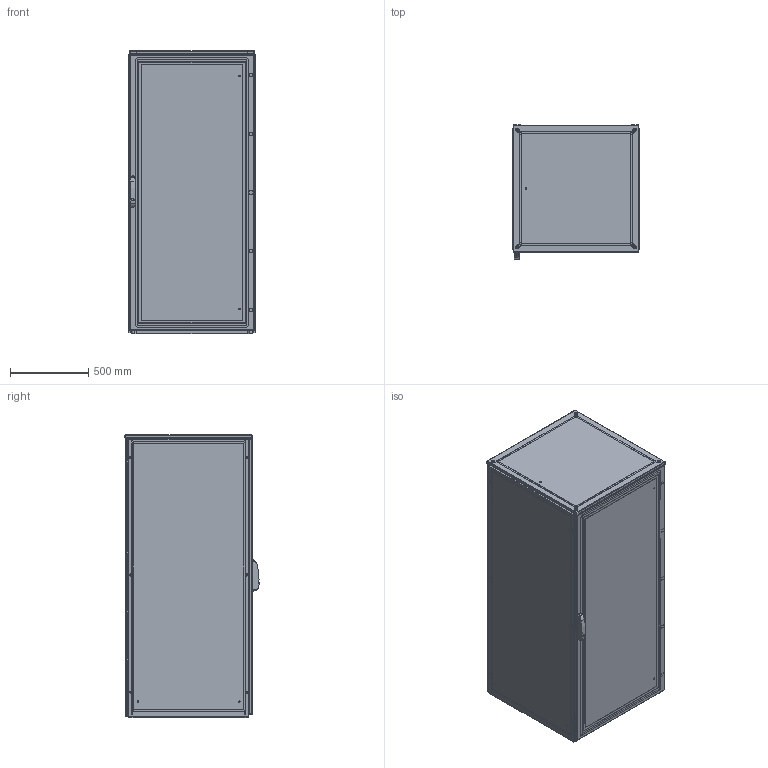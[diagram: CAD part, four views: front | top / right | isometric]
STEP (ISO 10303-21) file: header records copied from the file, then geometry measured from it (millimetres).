
FILE_DESCRIPTION(/* description */ ('STEP AP214'),/* implementation_level */ '2;1');
FILE_NAME(/* name */ 'ENUX081808PR-LOD350',/* time_stamp */ '2025-10-03T09:33:13+02:00',/* author */ ('License CC BY-ND 4.0'),/* organization */ ('CADENAS'),/* preprocessor_version */ 'ST-DEVELOPER v19.3',/* originating_system */ 'PARTsolutions',/* authorisation */ ' ');
FILE_SCHEMA (('AUTOMOTIVE_DESIGN {1 0 10303 214 3 1 1}'));
Length unit declared in the file: millimetre
Products named in the file (10): ENUX081808PR-LOD350; ENUX081808PR-LOD350_CON; ENUX081808PR-LOD350_floor1; ENUX081808PR-LOD350_floor2; Screw M12x30 architecture 350; ENUX081808PR-LOD350_side; ENUX081808PR-LOD350_top; ENUX081808PR-LOD350_back_door; ENUX081808PR-LOD350_door; ENUX081808PR-LOD350_handle
Assembly tree (18 placements, depth 2):
  ENUX081808PR-LOD350
    ENUX081808PR-LOD350_CON
    ENUX081808PR-LOD350_floor1  x2
    ENUX081808PR-LOD350_floor2  x5
    Screw M12x30 architecture 350  x4
    ENUX081808PR-LOD350_side  x2
    ENUX081808PR-LOD350_top
    ENUX081808PR-LOD350_back_door
    ENUX081808PR-LOD350_door
    ENUX081808PR-LOD350_handle
Bounding box: 812 x 857 x 1814.1 mm (x, y, z)
Volume: 24676900.7 mm3; surface area: 20057915.1 mm2
Topology: 18 solids, 18 shells, 1888 faces, 5295 edges, 3452 vertices
Faces by surface type: plane 960, cylinder 763, cone 77, torus 72, sphere 16
Full cylindrical faces by diameter (mm): 4.5 x132, 6 x14, 6.8 x8, 9 x9, 12 x16, 13 x4, 18 x1, 21 x4
Entity records: 47427 total; most frequent: DIRECTION 8213, CARTESIAN_POINT 8213, ORIENTED_EDGE 7704, EDGE_CURVE 3852, AXIS2_PLACEMENT_3D 2934, VERTEX_POINT 2693, LINE 2345, VECTOR 2345
